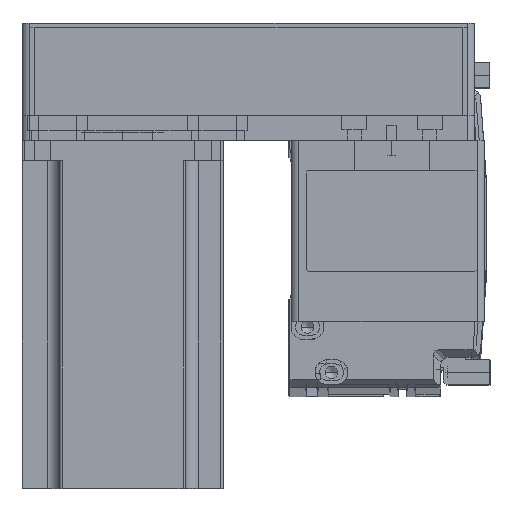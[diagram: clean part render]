
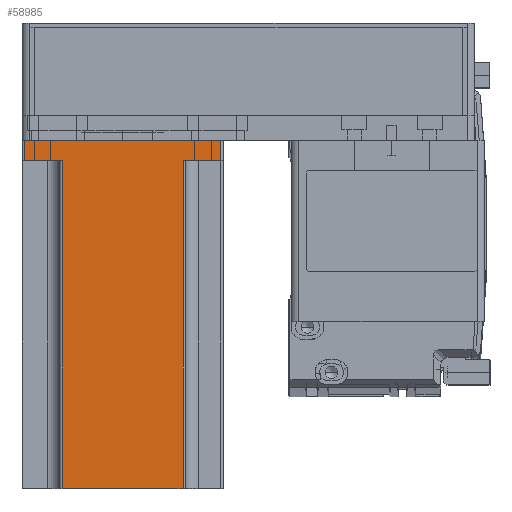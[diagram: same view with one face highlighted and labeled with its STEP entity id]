
A CAD part, top view. The second image highlights one B-rep face of the part: STEP entity #58985.
In plain terms, the highlighted planar face has unit normal (0, 0, 1) as drawn and (0, 1, 0) by its records, which use the part's own axes.
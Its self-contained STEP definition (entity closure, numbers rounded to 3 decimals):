
#1092 = EDGE_LOOP ( 'NONE', ( #14250, #56171, #4670, #9270, #24713, #18712, #63232, #50884 ) ) ;
#2593 = CARTESIAN_POINT ( 'NONE',  ( -24., 40., 8. ) ) ;
#3026 = VERTEX_POINT ( 'NONE', #52641 ) ;
#3104 = CARTESIAN_POINT ( 'NONE',  ( 24., 40., 138.3 ) ) ;
#3787 = DIRECTION ( 'NONE',  ( -1., 0., 0. ) ) ;
#4216 = VECTOR ( 'NONE', #21864, 1000. ) ;
#4326 = EDGE_CURVE ( 'NONE', #44644, #54267, #60272, .T. ) ;
#4339 = CARTESIAN_POINT ( 'NONE',  ( 40., 40., 138.3 ) ) ;
#4670 = ORIENTED_EDGE ( 'NONE', *, *, #59989, .F. ) ;
#5154 = VERTEX_POINT ( 'NONE', #24340 ) ;
#6666 = CARTESIAN_POINT ( 'NONE',  ( 39., 40., 0. ) ) ;
#6941 = DIRECTION ( 'NONE',  ( -1., 0., 0. ) ) ;
#8059 = DIRECTION ( 'NONE',  ( 0., 0., -1. ) ) ;
#8737 = LINE ( 'NONE', #20394, #34733 ) ;
#9047 = PLANE ( 'NONE',  #44183 ) ;
#9253 = DIRECTION ( 'NONE',  ( 1., 0., 0. ) ) ;
#9270 = ORIENTED_EDGE ( 'NONE', *, *, #44163, .T. ) ;
#9716 = EDGE_CURVE ( 'NONE', #54268, #19500, #31705, .T. ) ;
#10503 = LINE ( 'NONE', #36210, #60977 ) ;
#10826 = CARTESIAN_POINT ( 'NONE',  ( 24., 40., 138.3 ) ) ;
#12288 = LINE ( 'NONE', #3104, #36707 ) ;
#13394 = CARTESIAN_POINT ( 'NONE',  ( -39., 40., 138.3 ) ) ;
#14250 = ORIENTED_EDGE ( 'NONE', *, *, #35528, .T. ) ;
#15214 = DIRECTION ( 'NONE',  ( 0., 0., 1. ) ) ;
#18712 = ORIENTED_EDGE ( 'NONE', *, *, #4326, .T. ) ;
#18757 = VECTOR ( 'NONE', #52260, 1000. ) ;
#19245 = EDGE_CURVE ( 'NONE', #49632, #3026, #46972, .T. ) ;
#19500 = VERTEX_POINT ( 'NONE', #52122 ) ;
#20394 = CARTESIAN_POINT ( 'NONE',  ( -25., 40., 8. ) ) ;
#21032 = VECTOR ( 'NONE', #15214, 1000. ) ;
#21864 = DIRECTION ( 'NONE',  ( -1., 0., 0. ) ) ;
#24340 = CARTESIAN_POINT ( 'NONE',  ( 24., 40., 8. ) ) ;
#24375 = EDGE_CURVE ( 'NONE', #44644, #5154, #10503, .T. ) ;
#24713 = ORIENTED_EDGE ( 'NONE', *, *, #24375, .F. ) ;
#30518 = VECTOR ( 'NONE', #3787, 1000. ) ;
#31705 = LINE ( 'NONE', #13394, #18757 ) ;
#34266 = VECTOR ( 'NONE', #40743, 1000. ) ;
#34733 = VECTOR ( 'NONE', #54584, 1000. ) ;
#34838 = CARTESIAN_POINT ( 'NONE',  ( -24., 40., 138.3 ) ) ;
#35528 = EDGE_CURVE ( 'NONE', #19500, #49632, #8737, .T. ) ;
#35857 = CARTESIAN_POINT ( 'NONE',  ( 39., 40., 138.3 ) ) ;
#35912 = CARTESIAN_POINT ( 'NONE',  ( -39., 40., 0. ) ) ;
#36210 = CARTESIAN_POINT ( 'NONE',  ( 25., 40., 8. ) ) ;
#36341 = CARTESIAN_POINT ( 'NONE',  ( 40., 40., 0. ) ) ;
#36707 = VECTOR ( 'NONE', #8059, 1000. ) ;
#38500 = DIRECTION ( 'NONE',  ( 0., -1., 0. ) ) ;
#40743 = DIRECTION ( 'NONE',  ( 0., 0., -1. ) ) ;
#43184 = LINE ( 'NONE', #36341, #4216 ) ;
#43473 = LINE ( 'NONE', #62391, #30518 ) ;
#43575 = FACE_OUTER_BOUND ( 'NONE', #1092, .T. ) ;
#44163 = EDGE_CURVE ( 'NONE', #49007, #5154, #12288, .T. ) ;
#44183 = AXIS2_PLACEMENT_3D ( 'NONE', #4339, #38500, #9253 ) ;
#44644 = VERTEX_POINT ( 'NONE', #47276 ) ;
#46972 = LINE ( 'NONE', #34838, #21032 ) ;
#47276 = CARTESIAN_POINT ( 'NONE',  ( 39., 40., 8. ) ) ;
#49007 = VERTEX_POINT ( 'NONE', #10826 ) ;
#49632 = VERTEX_POINT ( 'NONE', #2593 ) ;
#50884 = ORIENTED_EDGE ( 'NONE', *, *, #9716, .T. ) ;
#51314 = EDGE_CURVE ( 'NONE', #54267, #54268, #43184, .T. ) ;
#52122 = CARTESIAN_POINT ( 'NONE',  ( -39., 40., 8. ) ) ;
#52260 = DIRECTION ( 'NONE',  ( 0., 0., 1. ) ) ;
#52641 = CARTESIAN_POINT ( 'NONE',  ( -24., 40., 138.3 ) ) ;
#54267 = VERTEX_POINT ( 'NONE', #6666 ) ;
#54268 = VERTEX_POINT ( 'NONE', #35912 ) ;
#54584 = DIRECTION ( 'NONE',  ( 1., 0., 0. ) ) ;
#56171 = ORIENTED_EDGE ( 'NONE', *, *, #19245, .T. ) ;
#58985 = ADVANCED_FACE ( 'NONE', ( #43575 ), #9047, .F. ) ;
#59989 = EDGE_CURVE ( 'NONE', #49007, #3026, #43473, .T. ) ;
#60272 = LINE ( 'NONE', #35857, #34266 ) ;
#60977 = VECTOR ( 'NONE', #6941, 1000. ) ;
#62391 = CARTESIAN_POINT ( 'NONE',  ( 40., 40., 138.3 ) ) ;
#63232 = ORIENTED_EDGE ( 'NONE', *, *, #51314, .T. ) ;
